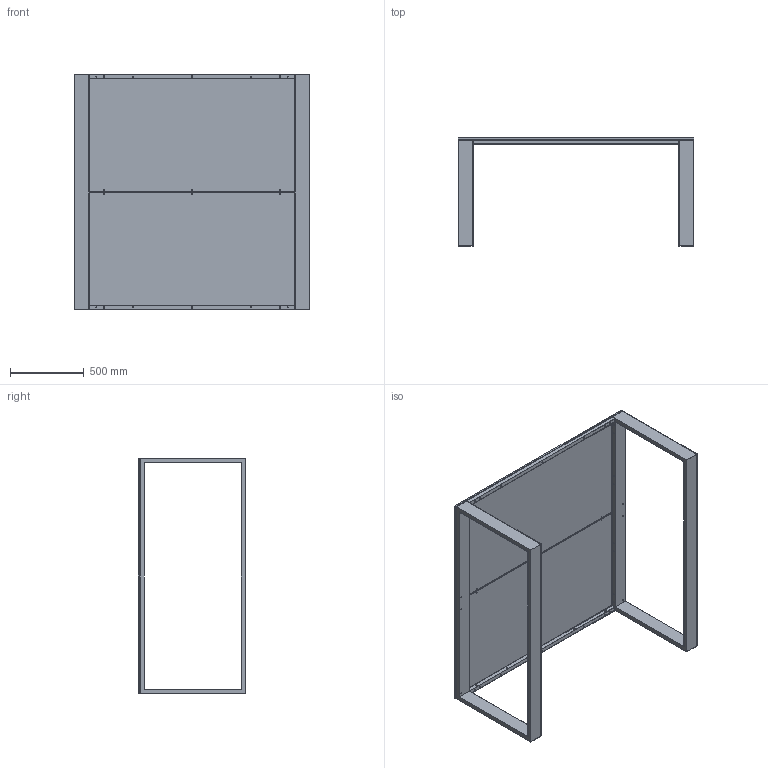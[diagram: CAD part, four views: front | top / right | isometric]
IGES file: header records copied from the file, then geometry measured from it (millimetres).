
Start section: SolidWorks IGES file using NURBS representation for surfaces
Global section: file name: G:\VICCARBE\PRODUCTOS\12-LEG-IN\04-MODELADOS (PLANOS)\SOLIDWORKS\LEG_IN 2011\ENSAMBLAJES\Mesas 3D\IGES\VICCARBE_LEB160x160.IGS; native system: SolidWorks 2009; preprocessor: SolidWorks 2009; author: RUBEN; date: 111024.095638; units: millimetre
Bounding box: 1600 x 732 x 1600 mm (x, y, z)
Surface area: 10418405 mm2 (no closed solid volume)
Topology: 0 solids, 0 shells, 298 faces, 4960 edges, 4912 vertices
Faces by surface type: bspline 298
